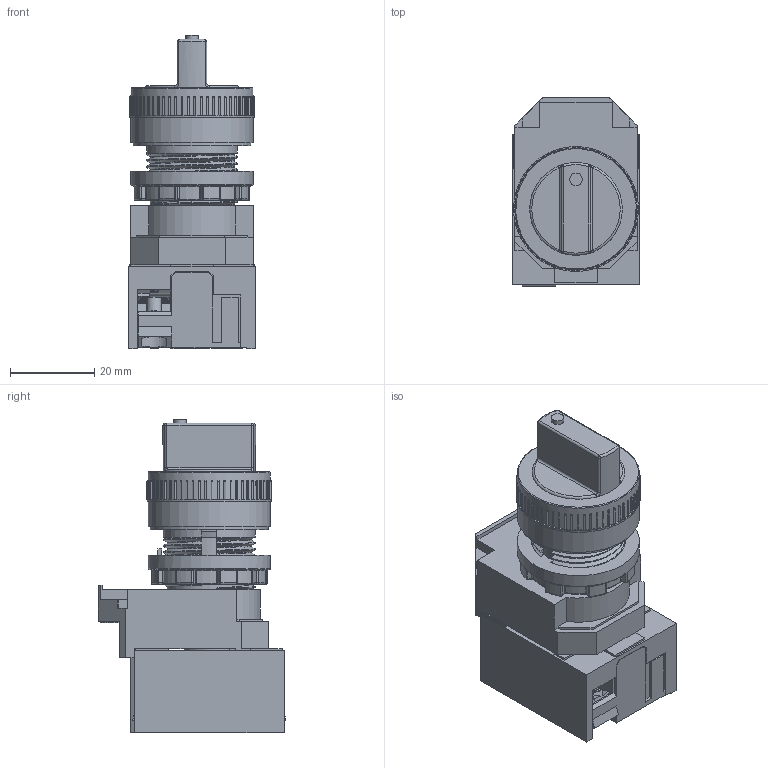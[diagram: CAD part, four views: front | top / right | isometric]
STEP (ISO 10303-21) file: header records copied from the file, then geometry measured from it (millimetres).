
FILE_DESCRIPTION(('Seletor Luminoso R22 3P'),'2;1');
FILE_NAME('E:\WorkFolder\Bibl\3DWeb\kp_c2_c2xh3$$d$$$$_step.stp','2020-04-29T08:17:37',('DIE'),('KAP Componentes Eletricos Ltda.'),'Autodesk Inventor 2011','Autodesk Inventor 2011','Direitos reservados. Proibido reproducao, cedencia ou revelacao de conteudo a terceiros, salvo com autorizacao.');
FILE_SCHEMA(('AUTOMOTIVE_DESIGN { 1 0 10303 214 1 1 1 1 }'));
Length unit declared in the file: millimetre
Products named in the file (1): Part3
Bounding box: 30 x 44.6 x 74.5 mm (x, y, z)
Volume: 49321.2 mm3; surface area: 18544.7 mm2
Topology: 2 solids, 9 shells, 1678 faces, 4591 edges, 2862 vertices
Faces by surface type: plane 969, cylinder 356, bspline 135, sphere 100, torus 95, cone 23
Full cylindrical faces by diameter (mm): 2.8 x2, 2.85 x1, 3 x4, 3.1 x2, 3.2 x1, 3.3 x2, 3.5 x3, 3.8 x1, 4.3 x1, 5.2 x1, 5.56 x1, 6 x2, 7.2 x1, 20 x1, 20.2 x1, 22.491 x3, 26 x1, 28 x1, 29 x3, 29.6 x1
Entity records: 58651 total; most frequent: CARTESIAN_POINT 15951, ORIENTED_EDGE 8816, DIRECTION 8151, EDGE_CURVE 4408, VERTEX_POINT 2837, AXIS2_PLACEMENT_3D 2728, VECTOR 2695, LINE 2695
